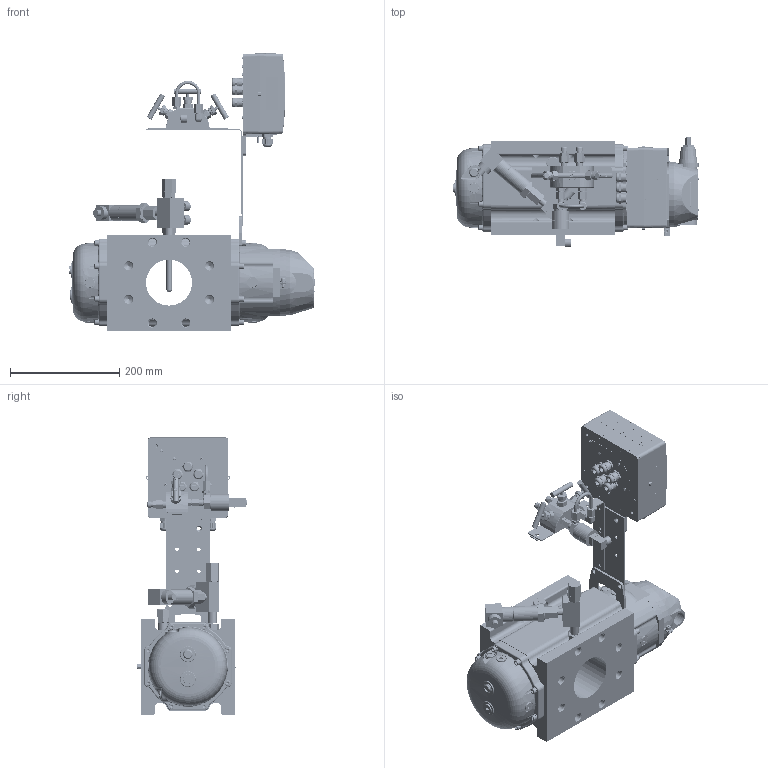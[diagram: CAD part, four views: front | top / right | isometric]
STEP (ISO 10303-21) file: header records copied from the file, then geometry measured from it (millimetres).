
FILE_DESCRIPTION(('STEP AP242'), '1');
FILE_NAME('ÝÐ-245-G100 áåç èñòîðèè', '', ('UNSPECIFIED'), ('UNSPECIFIED'), 'C3D Converter', 'C3D Toolkit', '');
FILE_SCHEMA(('AP242_MANAGED_MODEL_BASED_3D_ENGINEERING_MIM_LF { 1 0 10303 442 1 1 4 }'));
Length unit declared in the file: millimetre
Bounding box: 450 x 202.1 x 507.47 mm (x, y, z)
Volume: 9317687.2 mm3; surface area: 1109905.3 mm2
Topology: 165 solids, 167 shells, 33515 faces, 90954 edges, 60061 vertices
Faces by surface type: plane 15527, extrusion 11492, cylinder 4379, cone 804, bspline 750, torus 489, sphere 74
Full cylindrical faces by diameter (mm): 1.5 x1, 1.95 x3, 2 x12, 2.459 x22, 2.5 x4, 2.791 x2, 2.9 x4, 3 x30, 3.2 x13, 3.242 x12, 3.3 x6, 3.45 x7, 3.5 x16, 4 x22, 4.1 x8, 4.134 x1, 4.2 x12, 4.4 x1, 4.917 x19, 5 x22, 5.2 x4, 5.5 x20, 5.6 x20, 6 x31, 6.2 x2, 6.4 x6, 6.5 x24, 6.6 x16, 7 x22, 8 x22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
Entity records: 1447066 total; most frequent: CARTESIAN_POINT 403904, ORIENTED_EDGE 178674, DIRECTION 127967, EDGE_CURVE 89337, VECTOR 63405, VERTEX_POINT 59987, LINE 51913, EDGE_LOOP 37745
